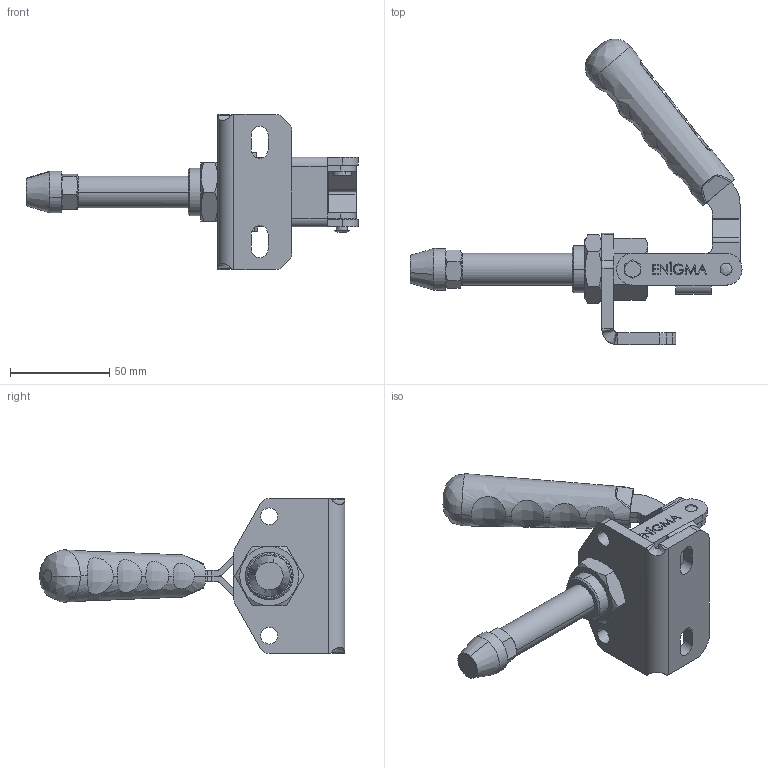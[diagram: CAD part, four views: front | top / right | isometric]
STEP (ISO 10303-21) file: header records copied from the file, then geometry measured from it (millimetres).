
FILE_DESCRIPTION (( 'STEP AP203' ), '1' );
FILE_NAME ('16016_Y.STEP', '2022-11-27T21:13:45', ( '' ), ( '' ), 'SwSTEP 2.0', 'SolidWorks 2023', '' );
FILE_SCHEMA (( 'CONFIG_CONTROL_DESIGN' ));
Length unit declared in the file: millimetre
Products named in the file (14): 16016_AltıgenGövde; 16014 & 16016_MAFSAL; 16016_Ø16_Frezelenmiş_Mil; M10 Somun; Aynalama16014 & 16016_HAREKET_KOLU; 16014 & 16016_Y_TABAN; M24x1_5x8_Kontra_Somun; M5x6x10_Kademeli_Civata; Baskı M10; 16014 & 16016_HAREKET_KOLU; 6x9_5_DOLU_PERÇİN; 6x24_5_PERÇİN; 16016_Y; C95_Yeni_Tutamak
Assembly tree (15 placements, depth 2):
  16016_Y
    16014 & 16016_Y_TABAN
    16014 & 16016_HAREKET_KOLU
    16014 & 16016_MAFSAL
    6x24_5_PERÇİN
    6x9_5_DOLU_PERÇİN  x2
    C95_Yeni_Tutamak
    M5x6x10_Kademeli_Civata  x2
    16016_AltıgenGövde
    16016_Ø16_Frezelenmiş_Mil
    M24x1_5x8_Kontra_Somun
    Aynalama16014 & 16016_HAREKET_KOLU
    Baskı M10
    M10 Somun
Bounding box: 167 x 153.72 x 78 mm (x, y, z)
Volume: 135481.2 mm3; surface area: 67328 mm2
Topology: 15 solids, 15 shells, 608 faces, 1563 edges, 1012 vertices
Faces by surface type: plane 325, cylinder 156, cone 73, bspline 54
Entity records: 22171 total; most frequent: CARTESIAN_POINT 6651, ORIENTED_EDGE 2982, DIRECTION 2795, EDGE_CURVE 1491, VERTEX_POINT 969, AXIS2_PLACEMENT_3D 937, LINE 921, VECTOR 921
